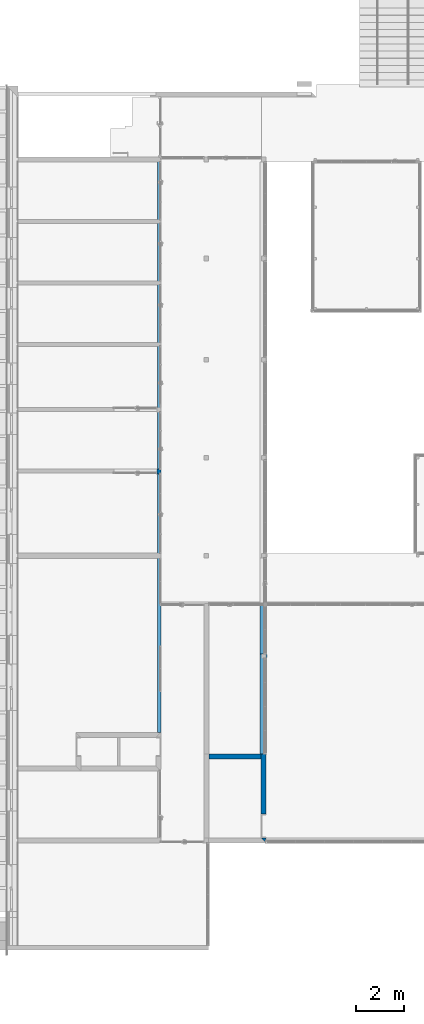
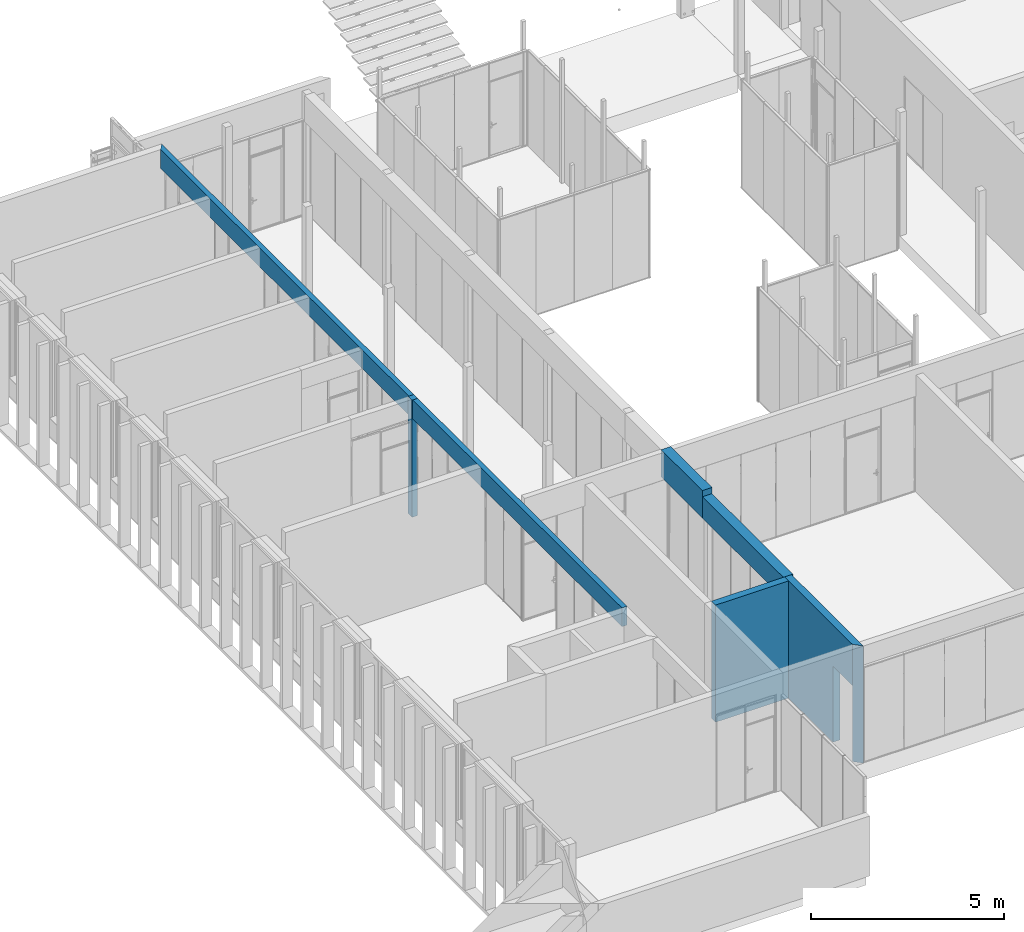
# One storey, part 28 of 387: 6 walls, 1 opening.
"""IFC2X3 building model written with IfcOpenShell, lengths in millimetres."""

from ifc_helpers import new_model, entity, si_unit, converted_unit, derived_unit, money_unit, direction, frame, origin_with_axes, origin_2d_with_axis, place, context, subcontext, project, spatial, polyline, rectangle, outline, extrude, material, layer, layer_set, layer_usage, type_object, element, save


model = new_model("IFC2X3")

# Units and contexts
model_context = context("Model", 3, precision=0.01, world=origin_with_axes(), true_north=direction((0.0, 1.0)))
body_context = subcontext(model_context, "Body", "Model", "MODEL_VIEW")
ifc_project = project(units=[si_unit("LENGTHUNIT", "METRE", prefix="MILLI"), si_unit("AREAUNIT", "SQUARE_METRE"), si_unit("VOLUMEUNIT", "CUBIC_METRE"), converted_unit("PLANEANGLEUNIT", "DEGREE", entity("IfcPlaneAngleMeasure", 0.0174532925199), si_unit("PLANEANGLEUNIT", "RADIAN"), dimensions=[0, 0, 0, 0, 0, 0, 0]), si_unit("SOLIDANGLEUNIT", "STERADIAN"), money_unit("EUR"), converted_unit("TIMEUNIT", "Year", entity("IfcTimeMeasure", 31556926.0), si_unit("TIMEUNIT", "SECOND"), dimensions=[0, 0, 1, 0, 0, 0, 0]), si_unit("MASSUNIT", "GRAM", prefix="KILO"), si_unit("THERMODYNAMICTEMPERATUREUNIT", "DEGREE_CELSIUS"), si_unit("LUMINOUSINTENSITYUNIT", "LUMEN"), si_unit("ENERGYUNIT", "JOULE", prefix="MEGA"), derived_unit("THERMALCONDUCTANCEUNIT", [(si_unit("POWERUNIT", "WATT"), 1), (si_unit("LENGTHUNIT", "METRE"), -1), (si_unit("THERMODYNAMICTEMPERATUREUNIT", "KELVIN"), -1)]), derived_unit("SPECIFICHEATCAPACITYUNIT", [(si_unit("ENERGYUNIT", "JOULE"), 1), (si_unit("MASSUNIT", "GRAM", prefix="KILO"), -1), (si_unit("THERMODYNAMICTEMPERATUREUNIT", "KELVIN"), -1)]), derived_unit("MASSDENSITYUNIT", [(si_unit("MASSUNIT", "GRAM", prefix="KILO"), 1), (si_unit("VOLUMEUNIT", "CUBIC_METRE"), -1)])], contexts=[model_context])

# Site, building, storey
site_placement = place(None, origin_with_axes())
site = spatial("IfcSite", under=ifc_project, at=site_placement, Name="Puškini 31, Narva", CompositionType="ELEMENT")
building_placement = place(site_placement, origin_with_axes())
building = spatial("IfcBuilding", under=site, at=building_placement, Name="Narva Riigigümnaasium", CompositionType="ELEMENT")
storey_placement = place(building_placement, frame((0.0, 0.0, 2640.0), z_axis=(0.0, 0.0, 1.0), x_axis=(1.0, 0.0, 0.0)))
storey = spatial("IfcBuildingStorey", under=building, at=storey_placement, Name="2.korrus +2.64", CompositionType="ELEMENT", Elevation=2640.0)

# Walls
ifc_material_1 = material(Name="SKR-02_Kipsplaat")
ifc_layer_1 = layer(ifc_material_1, 12.5, ventilated="UNKNOWN")
ifc_material_2 = material(Name="SOJ-03_Soojustus - Mineraal Pehme")
ifc_layer_2 = layer(ifc_material_2, 100.0, ventilated="UNKNOWN")
ifc_layer_set_1 = layer_set([ifc_layer_1, ifc_layer_1, ifc_layer_2, ifc_layer_1, ifc_layer_1], Name="G-SS-09")
ifc_layer_usage_1 = layer_usage(ifc_layer_set_1, "AXIS2", "NEGATIVE", 0.0)
wall_type_1 = type_object("IfcWallType", Name="G-SS-09 150", PredefinedType="NOTDEFINED")
wall_1_placement = place(storey_placement, frame((28399.9513983, 192180.0, 3108.5), z_axis=(0.0, 0.0, 1.0), x_axis=(0.0, -1.0, 0.0)))
element("IfcWallStandardCase", 1, at=wall_1_placement, inside=storey, type_object=wall_type_1, material=ifc_layer_usage_1, Name="Sisesein", context=body_context, shape_type="SweptSolid", body=[
    extrude(outline(polyline([(210.0, -150.0), (24079.9999997, -150.0), (24079.9999997, 0.0), (0.0, 0.0), (210.0, -150.0)])), origin_with_axes(), (0.0, 0.0, 1.0), 591.5),
])
ifc_material_3 = material(Name="siseviimistlus-seinad")
ifc_layer_3 = layer(ifc_material_3, 10.0, ventilated="UNKNOWN")
ifc_material_4 = material(Name="kergbetoonplokk")
ifc_layer_4 = layer(ifc_material_4, 150.0, ventilated="UNKNOWN")
ifc_layer_set_2 = layer_set([ifc_layer_3, ifc_layer_4, ifc_layer_3], Name="G-SS-04")
ifc_layer_usage_2 = layer_usage(ifc_layer_set_2, "AXIS2", "POSITIVE", 0.0)
wall_type_2 = type_object("IfcWallType", Name="G-SS-04 170", PredefinedType="NOTDEFINED")
wall_2_placement = place(storey_placement, frame((28400.0000001, 178929.972032, 0.0), z_axis=(0.0, 0.0, 1.0), x_axis=(-2.76486389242e-09, 1.0, 0.0)))
element("IfcWallStandardCase", 2, at=wall_2_placement, inside=storey, type_object=wall_type_2, material=ifc_layer_usage_2, Name="Sisesein", context=body_context, shape_type="SweptSolid", body=[
    extrude(outline(polyline([(0.0, 0.0), (200.00000007, 0.0), (200.00000007, 170.0), (0.0, 170.0), (0.0, 0.0)])), origin_with_axes(), (0.0, 0.0, 1.0), 3700.0),
])

# Wall, opening
ifc_material_5 = material(Name="õõnes betoonplokk")
ifc_layer_5 = layer(ifc_material_5, 190.0, ventilated="UNKNOWN")
ifc_layer_set_3 = layer_set([ifc_layer_3, ifc_layer_5, ifc_layer_3], Name="G-SS-02")
ifc_layer_usage_3 = layer_usage(ifc_layer_set_3, "AXIS2", "NEGATIVE", 0.0)
wall_type_3 = type_object("IfcWallType", Name="G-SS-02 210", PredefinedType="NOTDEFINED")
wall_3_placement = place(storey_placement, frame((32800.0000031, 167209.999919, 0.0), z_axis=(0.0, 0.0, 1.0), x_axis=(0.0, -1.0, 0.0)))
wall_3 = element("IfcWallStandardCase", 3, at=wall_3_placement, inside=storey, type_object=wall_type_3, material=ifc_layer_usage_3, Name="Sisesein", context=body_context, shape_type="SweptSolid", body=[
    extrude(outline(polyline([(0.0, -210.0), (3509.99991864, -210.0), (3719.99991839, 0.0), (0.0, 0.0), (0.0, -210.0)])), origin_with_axes(), (0.0, 0.0, 1.0), 3700.0),
])
opening_placement = place(wall_3_placement, frame((3009.99991709, 0.0, 0.0), z_axis=(0.0, 0.0, 1.0), x_axis=(1.0, 0.0, 0.0)))
element("IfcOpeningElement", 4, at=opening_placement, cuts=wall_3, Name="G-SU-057", context=body_context, shape_type="SweptSolid", body=[
    extrude(rectangle(XDim=1000.00000006, YDim=2400.0, at=origin_2d_with_axis()), frame((0.0, 210.0, 1200.0), z_axis=(0.0, 1.0, 0.0), x_axis=(1.0, 0.0, 0.0)), (0.0, 0.0, -1.0), 630.0),
])

# Walls
ifc_layer_usage_4 = layer_usage(ifc_layer_set_3, "AXIS2", "NEGATIVE", 10.0)
wall_4_placement = place(storey_placement, frame((30199.9999988, 167199.999919, 0.0), z_axis=(0.0, 0.0, 1.0), x_axis=(1.0, 0.0, 0.0)))
element("IfcWallStandardCase", 5, at=wall_4_placement, inside=storey, type_object=wall_type_3, material=ifc_layer_usage_4, Name="Sisesein", context=body_context, shape_type="SweptSolid", body=[
    extrude(outline(polyline([(209.999999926, -200.0), (2390.00000421, -200.0), (2390.00000421, 10.0), (209.999999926, 10.0), (209.999999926, -200.0)])), origin_with_axes(), (0.0, 0.0, 1.0), 3700.0),
])
ifc_layer_6 = layer(ifc_material_1, 12.0, ventilated="UNKNOWN")
ifc_material_6 = material(Name="VKR-06_Õhkvahe")
ifc_layer_7 = layer(ifc_material_6, 40.0, ventilated="UNKNOWN")
ifc_layer_set_4 = layer_set([ifc_layer_1, ifc_layer_6, ifc_layer_2, ifc_layer_7, ifc_layer_2, ifc_layer_6, ifc_layer_1], Name="G-SS-10")
ifc_layer_usage_5 = layer_usage(ifc_layer_set_4, "AXIS2", "NEGATIVE", 144.5)
wall_type_4 = type_object("IfcWallType", Name="G-SS-10 289", PredefinedType="NOTDEFINED")
wall_5_placement = place(storey_placement, frame((32700.0000014, 173532.78609, 3029.99997348), z_axis=(0.0, 0.0, 1.0), x_axis=(0.0, -1.0, 0.0)))
element("IfcWallStandardCase", 6, at=wall_5_placement, inside=storey, type_object=wall_type_4, material=ifc_layer_usage_5, Name="Sisesein", context=body_context, shape_type="SweptSolid", body=[
    extrude(outline(polyline([(0.0, -144.5), (2132.75641737, -144.5), (2132.75641737, 144.5), (0.0, 144.5), (0.0, -144.5)])), origin_with_axes(), (0.0, 0.0, 1.0), 865.000026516),
])
wall_6_placement = place(storey_placement, frame((32700.0000014, 171400.029673, 3029.99997348), z_axis=(0.0, 0.0, 1.0), x_axis=(0.0, -1.0, 0.0)))
element("IfcWallStandardCase", 7, at=wall_6_placement, inside=storey, type_object=wall_type_4, material=ifc_layer_usage_5, Name="Sisesein", context=body_context, shape_type="SweptSolid", body=[
    extrude(outline(polyline([(0.0, -144.5), (4190.02975354, -144.5), (4190.02975354, 144.5), (0.0, 144.5), (0.0, -144.5)])), origin_with_axes(), (0.0, 0.0, 1.0), 670.000026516),
])

save(model, "model.ifc")
